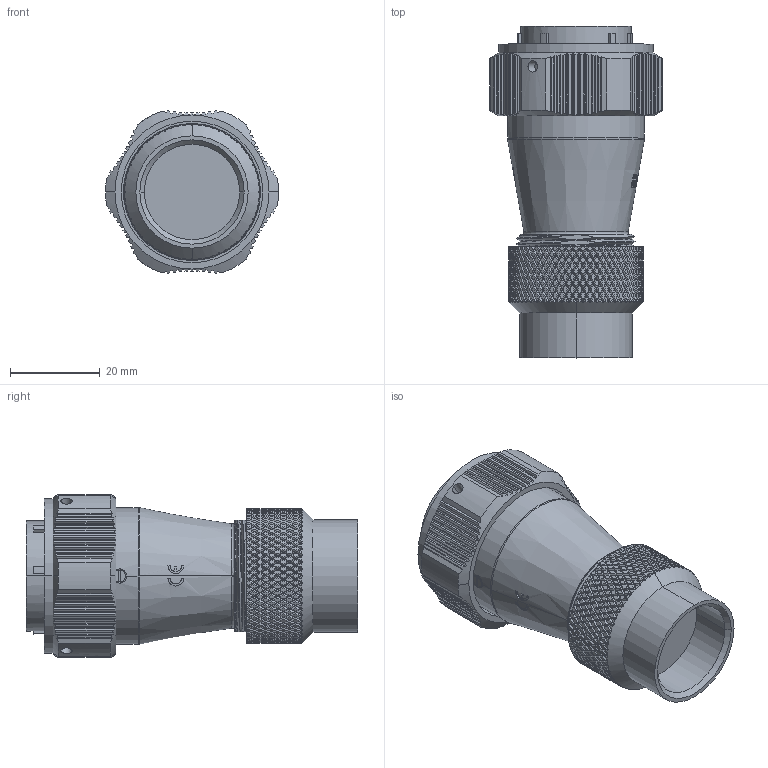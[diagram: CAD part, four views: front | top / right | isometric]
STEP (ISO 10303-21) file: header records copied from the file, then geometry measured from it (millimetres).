
FILE_DESCRIPTION((''),'2;1');
FILE_NAME('ASM0001_ASM','2020-06-04T',('Administrator'),(''),'CREO PARAMETRIC BY PTC INC, 2016130','CREO PARAMETRIC BY PTC INC, 2016130','');
FILE_SCHEMA(('CONFIG_CONTROL_DESIGN'));
Products named in the file (1): ASM0001_ASM
Bounding box: 38.5 x 73.87 x 36.2 mm (x, y, z)
Volume: 43707.1 mm3; surface area: 16533.7 mm2
Topology: 1 solids, 3 shells, 3721 faces, 8093 edges, 4400 vertices
Faces by surface type: bspline 2424, cylinder 805, plane 446, cone 40, torus 6
Entity records: 164262 total; most frequent: CARTESIAN_POINT 105734, ORIENTED_EDGE 16186, EDGE_CURVE 8093, B_SPLINE_CURVE_WITH_KNOTS 6849, VERTEX_POINT 4400, DIRECTION 4217, EDGE_LOOP 3753, FACE_OUTER_BOUND 3721
